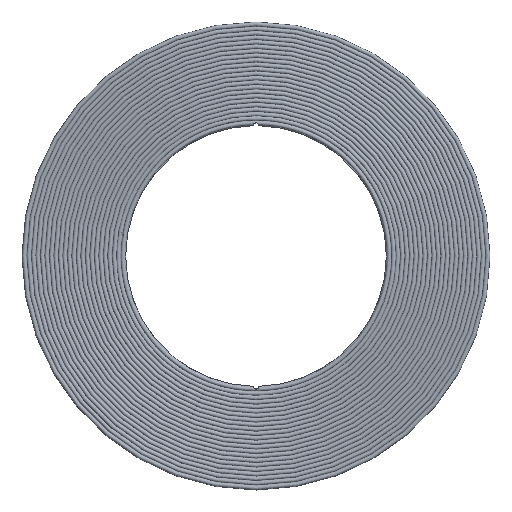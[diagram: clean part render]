
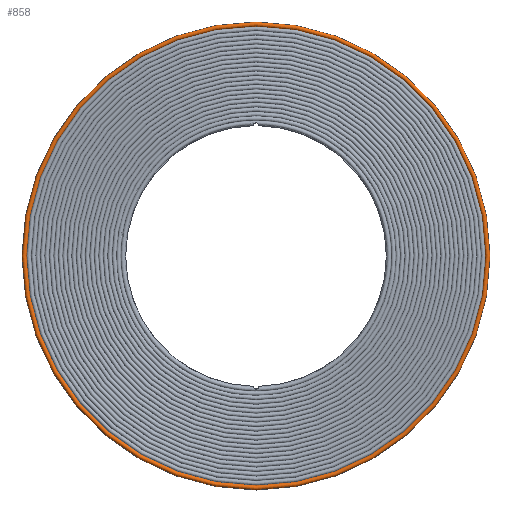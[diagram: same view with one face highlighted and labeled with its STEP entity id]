
A CAD part, top view. The second image highlights one B-rep face of the part: STEP entity #858.
In plain terms, the highlighted toroidal (fillet/blend) face has major radius 90.87 mm and minor radius 0.875 mm.
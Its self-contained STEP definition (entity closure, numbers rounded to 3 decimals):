
#118=TOROIDAL_SURFACE('',#977,90.87,0.875);
#195=CIRCLE('',#978,91.24);
#196=CIRCLE('',#979,89.995);
#272=VERTEX_POINT('',#1452);
#273=VERTEX_POINT('',#1454);
#359=EDGE_CURVE('',#272,#272,#195,.T.);
#360=EDGE_CURVE('',#273,#273,#196,.T.);
#470=ORIENTED_EDGE('',*,*,#359,.F.);
#471=ORIENTED_EDGE('',*,*,#360,.F.);
#611=EDGE_LOOP('',(#470));
#612=EDGE_LOOP('',(#471));
#749=FACE_BOUND('',#611,.T.);
#750=FACE_BOUND('',#612,.T.);
#858=ADVANCED_FACE('',(#749,#750),#118,.T.);
#977=AXIS2_PLACEMENT_3D('',#1450,#1156,$);
#978=AXIS2_PLACEMENT_3D('',#1451,#1157,#1158);
#979=AXIS2_PLACEMENT_3D('',#1453,#1159,#1160);
#1156=DIRECTION('',(0.,0.,1.));
#1157=DIRECTION('',(0.,0.,-1.));
#1158=DIRECTION('',(91.24,0.,0.));
#1159=DIRECTION('',(0.,0.,1.));
#1160=DIRECTION('',(89.995,0.,0.));
#1450=CARTESIAN_POINT('',(0.,0.,4.375));
#1451=CARTESIAN_POINT('',(0.,0.,3.582));
#1452=CARTESIAN_POINT('',(-91.24,0.,3.582));
#1453=CARTESIAN_POINT('',(0.,0.,4.375));
#1454=CARTESIAN_POINT('',(-89.995,0.,4.375));
